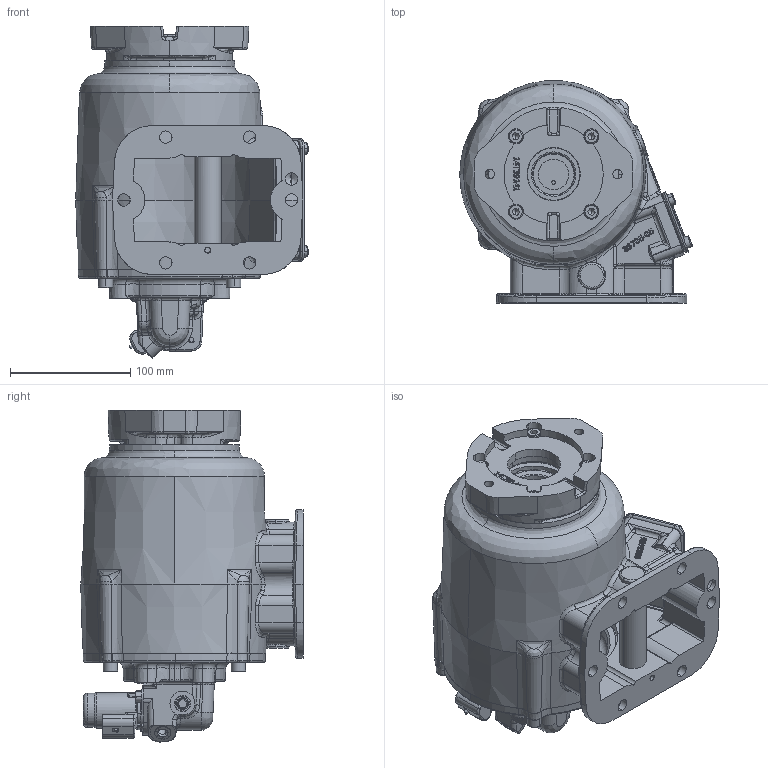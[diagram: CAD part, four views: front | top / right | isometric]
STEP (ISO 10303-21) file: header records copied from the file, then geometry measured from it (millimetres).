
FILE_DESCRIPTION (( 'STEP AP203' ), '1' );
FILE_NAME ('CS6B-A6804-S3TP.STEP', '2023-05-04T18:13:56', ( '' ), ( '' ), 'SwSTEP 2.0', 'SolidWorks 2021', '' );
FILE_SCHEMA (( 'CONFIG_CONTROL_DESIGN' ));
Length unit declared in the file: millimetre
Products named in the file (15): 25T34029; 19T35237; 19t39257; 19T41118; 15T41597; 36MCL100; 01T36706; 14T39141; CS6B-A6804-S3TP; 19T40859; 35T40860; 16T41119; 10T21017; 25T21684; 07T35947
Assembly tree (34 placements, depth 2):
  CS6B-A6804-S3TP
    01T36706
    07T35947
    19T35237  x4
    16T41119
    19T41118  x4
    14T39141
    15T41597
    25T21684  x10
    35T40860
    19T40859  x2
    25T34029  x2
    10T21017
    36MCL100
    19t39257  x4
Bounding box: 193.76 x 185.25 x 276.63 mm (x, y, z)
Volume: 633196.5 mm3; surface area: 424640 mm2
Topology: 37 solids, 38 shells, 2942 faces, 8330 edges, 5566 vertices
Faces by surface type: plane 960, bspline 902, cylinder 607, cone 296, torus 155, sphere 22
Entity records: 172114 total; most frequent: CARTESIAN_POINT 108802, ORIENTED_EDGE 14745, DIRECTION 9639, EDGE_CURVE 7375, VERTEX_POINT 5029, LINE 3331, VECTOR 3331, AXIS2_PLACEMENT_3D 3154
